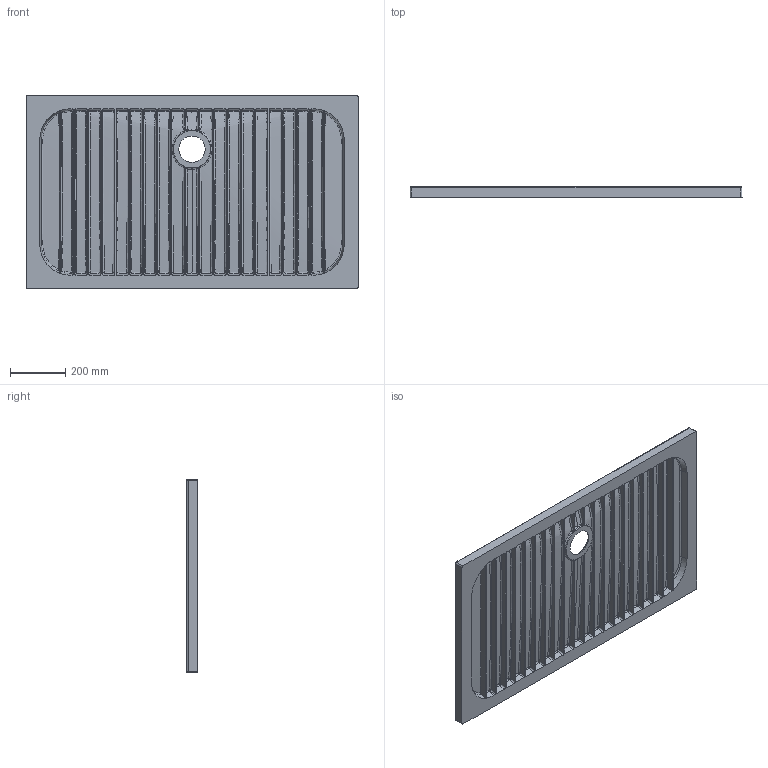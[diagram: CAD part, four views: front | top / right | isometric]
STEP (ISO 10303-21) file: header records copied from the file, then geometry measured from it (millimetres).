
FILE_DESCRIPTION (( 'STEP AP203' ), '1' );
FILE_NAME ('RAPID PD12007040.STEP', '2022-01-19T08:46:18', ( '' ), ( '' ), 'SwSTEP 2.0', 'SolidWorks 2021', '' );
FILE_SCHEMA (( 'CONFIG_CONTROL_DESIGN' ));
Products named in the file (1): RAPID PD12007040
Bounding box: 1201.33 x 38 x 701.33 mm (x, y, z)
Volume: 16557225.8 mm3; surface area: 2205439.4 mm2
Topology: 1 solids, 1 shells, 415 faces, 936 edges, 545 vertices
Faces by surface type: bspline 232, plane 90, cylinder 80, cone 13
Entity records: 81718 total; most frequent: CARTESIAN_POINT 74476, ORIENTED_EDGE 1866, EDGE_CURVE 933, DIRECTION 902, VERTEX_POINT 545, EDGE_LOOP 442, FACE_OUTER_BOUND 417, ADVANCED_FACE 415
